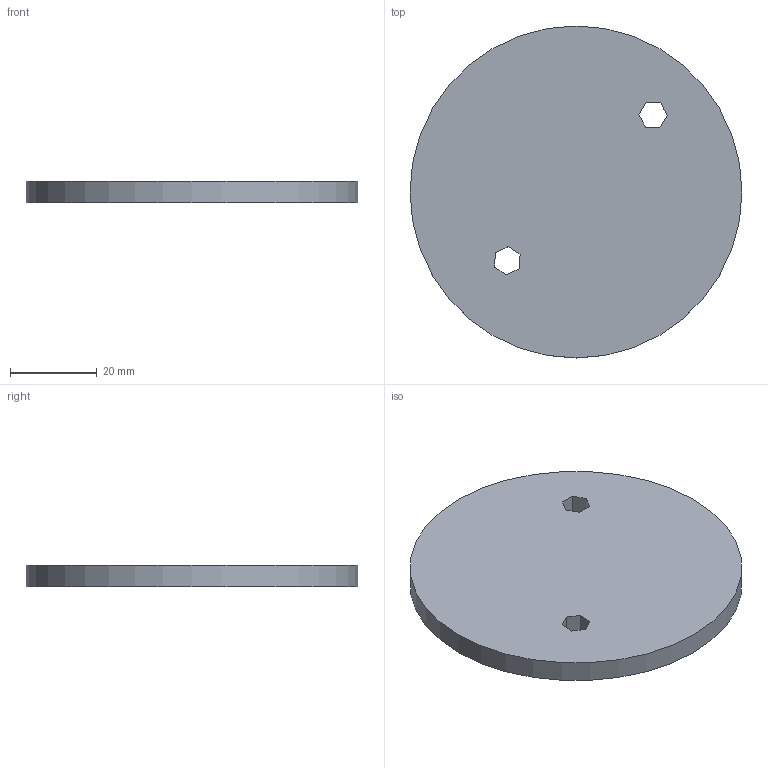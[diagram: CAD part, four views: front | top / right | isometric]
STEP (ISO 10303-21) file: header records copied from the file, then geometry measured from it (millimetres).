
FILE_DESCRIPTION(('STEP AP242 Edition 2','STEP AP242 Edition 2''CAx-IF Rec.Pracs.---Representation and Presentation of Product Manufacturing Information (PMI)---4.0---2014-10-13','STEP AP242 Edition 2''CAx-IF Rec.Pracs.---Representation and Presentation of Product Manufacturing Information (PMI)---4.0---2014-10-13''CAx-IF Rec.Pracs.---3D Tessellated Geometry---0.4---2014-09-14','STEP AP242 Edition 2''CAx-IF Rec.Pracs.---Representation and Presentation of Product Manufacturing Information (PMI)---4.0---2014-10-13''CAx-IF Rec.Pracs.---3D Tessellated Geometry---0.4---2014-09-14''2;1','STEP AP242 Edition 2''CAx-IF Rec.Pracs.---Representation and Presentation of Product Manufacturing Information (PMI)---4.0---2014-10-13''CAx-IF Rec.Pracs.---3D Tessellated Geometry---0.4---2014-09-14''2;1''CAx-IF Rec.Pracs.---User Defined Attributes---1.5---2016-08-15'),'2;1');
FILE_NAME('/vol/tmp/translate-4500610375692572013/Assembly 1 - Part 11.step','2026-02-26T04:21:28',(''),(''),'ST-DEVELOPER v20','ONSHAPE BY PTC INC, 1.211',' ');
FILE_SCHEMA(('AP242_MANAGED_MODEL_BASED_3D_ENGINEERING_MIM_LF { 1 0 10303 442 3 1 4 }'));
Length unit declared in the file: metre
Products named in the file (1): Part 11
Bounding box: 76.61 x 76.61 x 5 mm (x, y, z)
Volume: 22765.3 mm3; surface area: 10506.9 mm2
Topology: 1 solids, 1 shells, 15 faces, 39 edges, 26 vertices
Faces by surface type: plane 14, cylinder 1
Full cylindrical faces by diameter (mm): 76.608 x1
Entity records: 480 total; most frequent: CARTESIAN_POINT 80, ORIENTED_EDGE 76, DIRECTION 72, EDGE_CURVE 38, LINE 36, VECTOR 36, VERTEX_POINT 26, EDGE_LOOP 20
